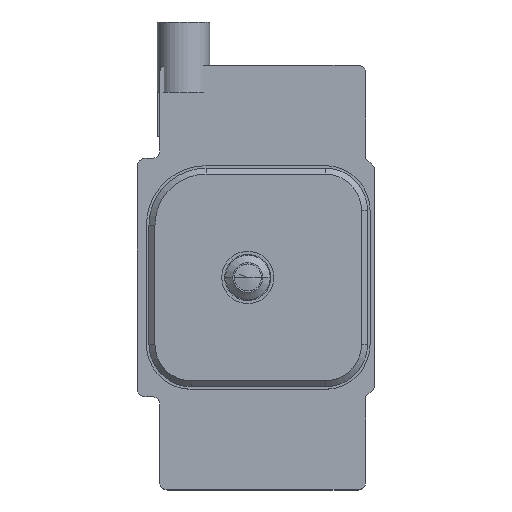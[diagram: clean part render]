
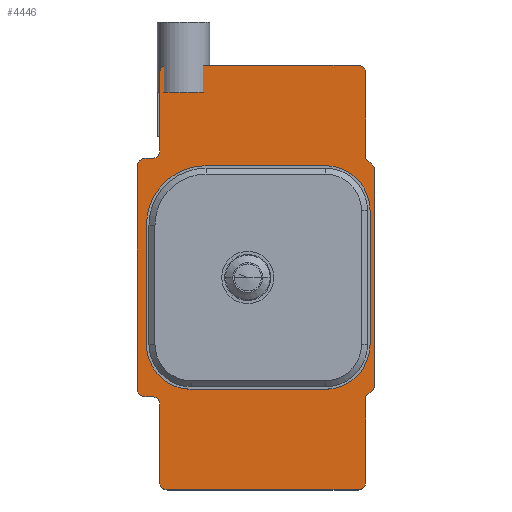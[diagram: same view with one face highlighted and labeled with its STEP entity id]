
A CAD part, top view. The second image highlights one B-rep face of the part: STEP entity #4446.
In plain terms, the highlighted planar face has unit normal (0, 0, 1).
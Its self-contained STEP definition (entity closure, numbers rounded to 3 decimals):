
#3120=CARTESIAN_POINT('',(23.945,25.378,0.));
#3121=DIRECTION('',(0.,0.,1.));
#3122=DIRECTION('',(1.,0.,0.));
#3123=AXIS2_PLACEMENT_3D('',#3120,#3121,#3122);
#3138=DIRECTION('',(-0.707,0.707,0.));
#3139=VECTOR('',#3138,0.849);
#3140=CARTESIAN_POINT('',(25.045,19.028,0.));
#3141=LINE('',#3140,#3139);
#3150=DIRECTION('',(0.,1.,0.));
#3151=VECTOR('',#3150,14.8);
#3152=CARTESIAN_POINT('',(25.045,4.228,0.));
#3153=LINE('',#3152,#3151);
#3170=DIRECTION('',(-0.707,-0.707,0.));
#3171=VECTOR('',#3170,0.849);
#3172=CARTESIAN_POINT('',(25.045,4.228,0.));
#3173=LINE('',#3172,#3171);
#3187=CARTESIAN_POINT('',(23.945,-2.122,0.));
#3188=DIRECTION('',(0.,0.,1.));
#3189=DIRECTION('',(0.,-1.,0.));
#3190=AXIS2_PLACEMENT_3D('',#3187,#3188,#3189);
#3196=CARTESIAN_POINT('',(11.145,-2.122,0.));
#3197=DIRECTION('',(0.,0.,1.));
#3198=DIRECTION('',(-1.,0.,0.));
#3199=AXIS2_PLACEMENT_3D('',#3196,#3197,#3198);
#3223=CARTESIAN_POINT('',(10.145,3.128,0.));
#3224=DIRECTION('',(0.,0.,-1.));
#3225=DIRECTION('',(0.,1.,0.));
#3226=AXIS2_PLACEMENT_3D('',#3223,#3224,#3225);
#3241=CARTESIAN_POINT('',(9.645,4.128,0.));
#3242=DIRECTION('',(0.,0.,1.));
#3243=DIRECTION('',(-1.,0.,0.));
#3244=AXIS2_PLACEMENT_3D('',#3241,#3242,#3243);
#3250=DIRECTION('',(0.,-1.,0.));
#3251=VECTOR('',#3250,15.);
#3252=CARTESIAN_POINT('',(9.145,19.128,0.));
#3253=LINE('',#3252,#3251);
#3258=CARTESIAN_POINT('',(9.645,19.128,0.));
#3259=DIRECTION('',(0.,0.,1.));
#3260=DIRECTION('',(0.,1.,0.));
#3261=AXIS2_PLACEMENT_3D('',#3258,#3259,#3260);
#3285=CARTESIAN_POINT('',(10.145,20.128,0.));
#3286=DIRECTION('',(0.,0.,-1.));
#3287=DIRECTION('',(1.,0.,0.));
#3288=AXIS2_PLACEMENT_3D('',#3285,#3286,#3287);
#3303=CARTESIAN_POINT('',(11.145,25.378,0.));
#3304=DIRECTION('',(0.,0.,1.));
#3305=DIRECTION('',(0.,1.,0.));
#3306=AXIS2_PLACEMENT_3D('',#3303,#3304,#3305);
#3308=DIRECTION('',(-1.,0.,0.));
#3309=VECTOR('',#3308,12.8);
#3310=CARTESIAN_POINT('',(23.945,25.878,0.));
#3311=LINE('',#3310,#3309);
#3316=DIRECTION('',(0.,-1.,0.));
#3317=VECTOR('',#3316,5.75);
#3318=CARTESIAN_POINT('',(24.445,25.378,0.));
#3319=LINE('',#3318,#3317);
#3320=DIRECTION('',(0.,1.,0.));
#3321=VECTOR('',#3320,5.75);
#3322=CARTESIAN_POINT('',(24.445,-2.122,0.));
#3323=LINE('',#3322,#3321);
#3324=DIRECTION('',(1.,0.,0.));
#3325=VECTOR('',#3324,12.8);
#3326=CARTESIAN_POINT('',(11.145,-2.622,0.));
#3327=LINE('',#3326,#3325);
#3328=DIRECTION('',(0.,1.,0.));
#3329=VECTOR('',#3328,5.25);
#3330=CARTESIAN_POINT('',(10.645,-2.122,0.));
#3331=LINE('',#3330,#3329);
#3332=DIRECTION('',(1.,0.,0.));
#3333=VECTOR('',#3332,0.5);
#3334=CARTESIAN_POINT('',(9.645,3.628,0.));
#3335=LINE('',#3334,#3333);
#3336=DIRECTION('',(1.,0.,0.));
#3337=VECTOR('',#3336,0.5);
#3338=CARTESIAN_POINT('',(9.645,19.628,0.));
#3339=LINE('',#3338,#3337);
#3340=DIRECTION('',(0.,-1.,0.));
#3341=VECTOR('',#3340,5.25);
#3342=CARTESIAN_POINT('',(10.645,25.378,0.));
#3343=LINE('',#3342,#3341);
#3369=CARTESIAN_POINT('',(10.645,3.128,0.));
#3371=VERTEX_POINT('',#3369);
#3373=CARTESIAN_POINT('',(10.145,3.628,0.));
#3375=VERTEX_POINT('',#3373);
#3377=CARTESIAN_POINT('',(10.145,19.628,0.));
#3379=VERTEX_POINT('',#3377);
#3381=CARTESIAN_POINT('',(10.645,20.128,0.));
#3383=VERTEX_POINT('',#3381);
#3385=CARTESIAN_POINT('',(25.045,19.028,0.));
#3387=VERTEX_POINT('',#3385);
#3389=CARTESIAN_POINT('',(24.445,19.628,0.));
#3391=VERTEX_POINT('',#3389);
#3393=CARTESIAN_POINT('',(25.045,4.228,0.));
#3395=VERTEX_POINT('',#3393);
#3397=CARTESIAN_POINT('',(24.445,3.628,0.));
#3399=VERTEX_POINT('',#3397);
#3400=CARTESIAN_POINT('',(24.445,25.378,0.));
#3402=VERTEX_POINT('',#3400);
#3404=CARTESIAN_POINT('',(23.945,25.878,0.));
#3405=VERTEX_POINT('',#3404);
#3409=CARTESIAN_POINT('',(24.445,-2.122,0.));
#3411=VERTEX_POINT('',#3409);
#3414=CARTESIAN_POINT('',(23.945,-2.622,0.));
#3415=VERTEX_POINT('',#3414);
#3416=CARTESIAN_POINT('',(10.645,-2.122,0.));
#3418=VERTEX_POINT('',#3416);
#3420=CARTESIAN_POINT('',(11.145,-2.622,0.));
#3421=VERTEX_POINT('',#3420);
#3425=CARTESIAN_POINT('',(9.645,3.628,0.));
#3427=VERTEX_POINT('',#3425);
#3430=CARTESIAN_POINT('',(9.145,4.128,0.));
#3431=VERTEX_POINT('',#3430);
#3432=CARTESIAN_POINT('',(9.645,19.628,0.));
#3434=VERTEX_POINT('',#3432);
#3436=CARTESIAN_POINT('',(9.145,19.128,0.));
#3437=VERTEX_POINT('',#3436);
#3441=CARTESIAN_POINT('',(10.645,25.378,0.));
#3443=VERTEX_POINT('',#3441);
#3446=CARTESIAN_POINT('',(11.145,25.878,0.));
#3447=VERTEX_POINT('',#3446);
#4419=CARTESIAN_POINT('',(28.588,20.685,0.));
#4420=DIRECTION('',(0.,0.,1.));
#4421=DIRECTION('',(1.,0.,0.));
#4422=AXIS2_PLACEMENT_3D('',#4419,#4420,#4421);
#4423=PLANE('',#4422);
#4424=ORIENTED_EDGE('',*,*,#4146,.F.);
#4425=ORIENTED_EDGE('',*,*,#4163,.T.);
#4426=ORIENTED_EDGE('',*,*,#4175,.F.);
#4427=ORIENTED_EDGE('',*,*,#4189,.F.);
#4428=ORIENTED_EDGE('',*,*,#4205,.T.);
#4429=ORIENTED_EDGE('',*,*,#4217,.F.);
#4430=ORIENTED_EDGE('',*,*,#4233,.F.);
#4431=ORIENTED_EDGE('',*,*,#4247,.F.);
#4432=ORIENTED_EDGE('',*,*,#4259,.F.);
#4433=ORIENTED_EDGE('',*,*,#4275,.T.);
#4434=ORIENTED_EDGE('',*,*,#4289,.F.);
#4435=ORIENTED_EDGE('',*,*,#4301,.F.);
#4436=ORIENTED_EDGE('',*,*,#4317,.F.);
#4437=ORIENTED_EDGE('',*,*,#4331,.F.);
#4438=ORIENTED_EDGE('',*,*,#4343,.F.);
#4439=ORIENTED_EDGE('',*,*,#4359,.T.);
#4440=ORIENTED_EDGE('',*,*,#4373,.F.);
#4441=ORIENTED_EDGE('',*,*,#4385,.F.);
#4442=ORIENTED_EDGE('',*,*,#4401,.F.);
#4443=ORIENTED_EDGE('',*,*,#4412,.F.);
#4444=EDGE_LOOP('',(#4424,#4425,#4426,#4427,#4428,#4429,#4430,#4431,#4432,#4433,
#4434,#4435,#4436,#4437,#4438,#4439,#4440,#4441,#4442,#4443));
#4445=FACE_OUTER_BOUND('',#4444,.F.);
#4446=ADVANCED_FACE('',(#4445),#4423,.T.);
#3124=CIRCLE('',#3123,0.5);
#3191=CIRCLE('',#3190,0.5);
#3200=CIRCLE('',#3199,0.5);
#3227=CIRCLE('',#3226,0.5);
#3245=CIRCLE('',#3244,0.5);
#3262=CIRCLE('',#3261,0.5);
#3289=CIRCLE('',#3288,0.5);
#3307=CIRCLE('',#3306,0.5);
#4146=EDGE_CURVE('',#3402,#3405,#3124,.T.);
#4163=EDGE_CURVE('',#3402,#3391,#3319,.T.);
#4175=EDGE_CURVE('',#3387,#3391,#3141,.T.);
#4189=EDGE_CURVE('',#3395,#3387,#3153,.T.);
#4205=EDGE_CURVE('',#3395,#3399,#3173,.T.);
#4217=EDGE_CURVE('',#3411,#3399,#3323,.T.);
#4233=EDGE_CURVE('',#3415,#3411,#3191,.T.);
#4247=EDGE_CURVE('',#3421,#3415,#3327,.T.);
#4259=EDGE_CURVE('',#3418,#3421,#3200,.T.);
#4275=EDGE_CURVE('',#3418,#3371,#3331,.T.);
#4289=EDGE_CURVE('',#3375,#3371,#3227,.T.);
#4301=EDGE_CURVE('',#3427,#3375,#3335,.T.);
#4317=EDGE_CURVE('',#3431,#3427,#3245,.T.);
#4331=EDGE_CURVE('',#3437,#3431,#3253,.T.);
#4343=EDGE_CURVE('',#3434,#3437,#3262,.T.);
#4359=EDGE_CURVE('',#3434,#3379,#3339,.T.);
#4373=EDGE_CURVE('',#3383,#3379,#3289,.T.);
#4385=EDGE_CURVE('',#3443,#3383,#3343,.T.);
#4401=EDGE_CURVE('',#3447,#3443,#3307,.T.);
#4412=EDGE_CURVE('',#3405,#3447,#3311,.T.);
